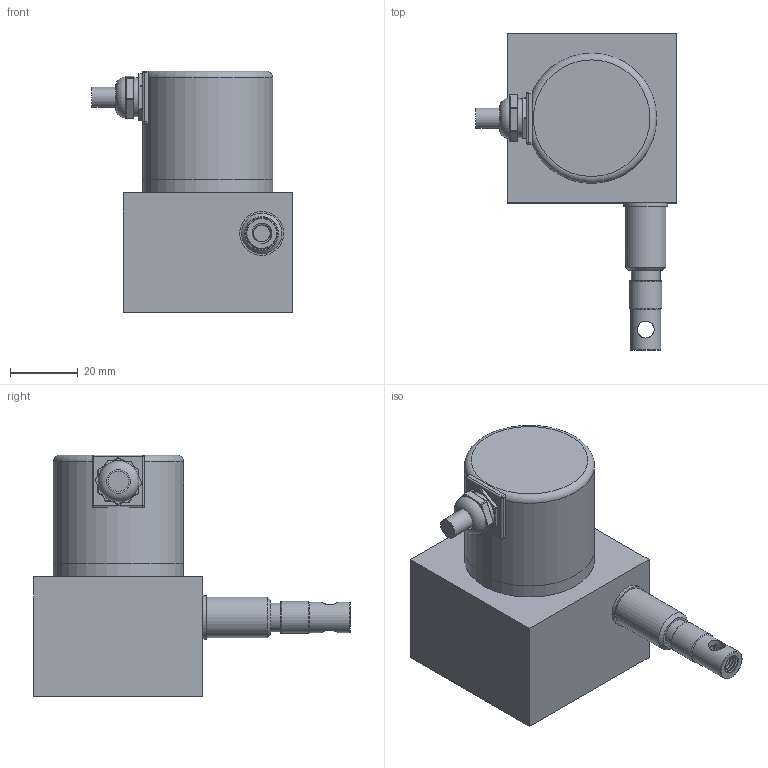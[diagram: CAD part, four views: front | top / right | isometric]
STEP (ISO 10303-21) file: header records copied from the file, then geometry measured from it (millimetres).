
FILE_DESCRIPTION(/* description */ (''),/* implementation_level */ '2;1');
FILE_NAME(/* name */ 'HY50-3D1.step',/* time_stamp */ '2020-05-15T16:22:08+08:00',/* author */ (''),/* organization */ (''),/* preprocessor_version */ 'ST-DEVELOPER v16',/* originating_system */ 'SIEMENS PLM Software NX 10.0',/* authorisation */ '');
FILE_SCHEMA (('AUTOMOTIVE_DESIGN { 1 0 10303 214 3 1 1 1 }'));
Length unit declared in the file: millimetre
Products named in the file (1): HY-50
Bounding box: 59.25 x 93.5 x 71.5 mm (x, y, z)
Volume: 135048.4 mm3; surface area: 26096.7 mm2
Topology: 14 solids, 14 shells, 185 faces, 423 edges, 262 vertices
Faces by surface type: cylinder 75, plane 53, bspline 29, torus 20, cone 4, sphere 4
Full cylindrical faces by diameter (mm): 5 x2, 6 x1, 7 x1, 8.5 x1, 9 x1, 9.5 x1, 11.5 x1, 12 x1, 12.124 x1, 13 x1, 38.5 x2
Entity records: 21314 total; most frequent: CARTESIAN_POINT 17403, ORIENTED_EDGE 790, DIRECTION 721, EDGE_CURVE 395, AXIS2_PLACEMENT_3D 307, VERTEX_POINT 257, EDGE_LOOP 210, ADVANCED_FACE 185
